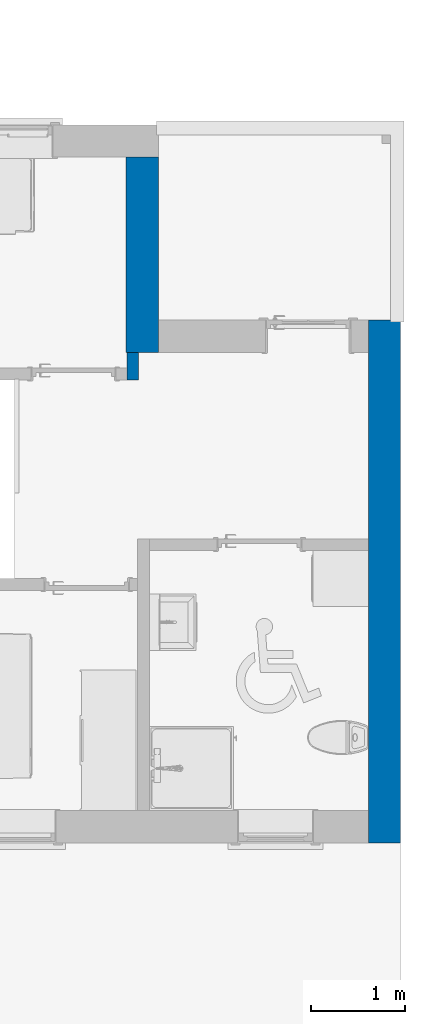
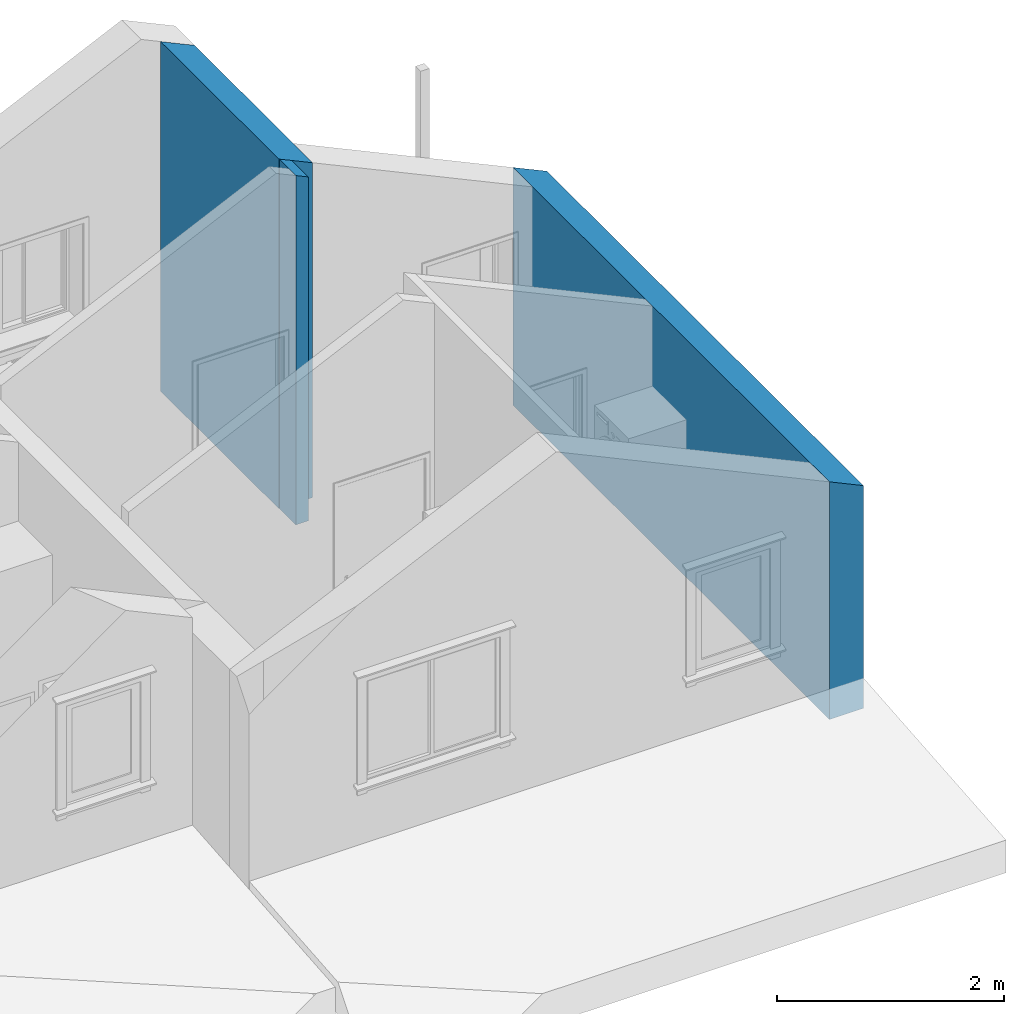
# One storey, part 28 of 44: 3 walls.
"""IFC2X3 building model written with IfcOpenShell, lengths in millimetres."""

from ifc_helpers import new_model, entity, si_unit, converted_unit, direction, frame, frame_2d, origin, place, context, subcontext, project, spatial, polyline, rectangle, extrude, clip, bounded_halfspace, material, layer, layer_set, layer_usage, type_object, element, save


model = new_model("IFC2X3")

# Units and contexts
model_context = context("Model", 3, precision=0.01, world=origin(), true_north=direction((0.0, 1.0)))
body_context = subcontext(model_context, "Body", "Model", "MODEL_VIEW")
ifc_project = project(units=[si_unit("LENGTHUNIT", "METRE", prefix="MILLI"), si_unit("AREAUNIT", "SQUARE_METRE"), si_unit("VOLUMEUNIT", "CUBIC_METRE"), converted_unit("PLANEANGLEUNIT", "DEGREE", entity("IfcPlaneAngleMeasure", 0.017453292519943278), si_unit("PLANEANGLEUNIT", "RADIAN"), dimensions=[0, 0, 0, 0, 0, 0, 0])], contexts=[model_context])

# Site, building, storey
site_placement = place(None, origin())
site = spatial("IfcSite", under=ifc_project, at=site_placement, Name="Default", CompositionType="ELEMENT")
building_placement = place(site_placement, origin())
building = spatial("IfcBuilding", under=site, at=building_placement, CompositionType="ELEMENT")
storey_placement = place(building_placement, frame((0.0, 0.0, 2681.0)))
storey = spatial("IfcBuildingStorey", under=building, at=storey_placement, Name="Et. 2", CompositionType="ELEMENT", Elevation=2681.0)

# Walls
ifc_material_1 = material(Name="Vegg - Stående Kledning_smal - HVIT")
ifc_layer_1 = layer(ifc_material_1, 19.0)
ifc_material_2 = material(Name="Vegg - Utlekting")
ifc_layer_2 = layer(ifc_material_2, 36.0)
ifc_layer_3 = layer(ifc_material_2, 23.0)
ifc_material_3 = material(Name="Vegg - Gips - GU")
ifc_layer_4 = layer(ifc_material_3, 9.0)
ifc_material_4 = material(Name="Vegg - Stender - Isolert")
ifc_layer_5 = layer(ifc_material_4, 198.0)
ifc_material_5 = material(Name="Vegg - Påforing - Isolert")
ifc_layer_6 = layer(ifc_material_5, 48.0)
ifc_material_6 = material(Name="Vegg - Gips - Hvit")
ifc_layer_7 = layer(ifc_material_6, 13.000000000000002)
ifc_layer_set_1 = layer_set([ifc_layer_1, ifc_layer_2, ifc_layer_3, ifc_layer_4, ifc_layer_5, ifc_layer_6, ifc_layer_7], Name="Basic Wall:23-Kv(sm)TIG-19_36_23_9_198_48_13")
ifc_layer_usage_1 = layer_usage(ifc_layer_set_1, "AXIS2", "NEGATIVE", 173.0)
wall_type_1 = type_object("IfcWallType", Name="Basic Wall:23-Kv(sm)TIG-19_36_23_9_198_48_13", PredefinedType="STANDARD", material=ifc_layer_set_1)
wall_1_placement = place(storey_placement, frame((34092.00958675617, 13995.18095768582, 0.0), z_axis=(0.0, 0.0, 1.0), x_axis=(0.0, -1.0, 0.0)))
element("IfcWallStandardCase", 1, at=wall_1_placement, inside=storey, type_object=wall_type_1, material=ifc_layer_usage_1, Name="Basic Wall:23-Kv(sm)TIG-19_36_23_9_198_48_13", context=body_context, shape_type="Clipping", body=[
    clip(extrude(rectangle(XDim=5587.000000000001, YDim=345.9999999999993, at=frame_2d((2793.5000000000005, 8.384404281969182e-13), x_axis=(-1.0, 0.0))), origin(), (0.0, 0.0, 1.0), 2561.3424497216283), bounded_halfspace(frame((0.0, -173.0, 2561.3424497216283), z_axis=(0.0, 0.42261826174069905, 0.9063077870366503), x_axis=(-1.0, 0.0, 0.0)), False, frame((0.0, -173.0, 2561.3424497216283)), polyline([(0.0, 0.0), (346.0, 0.0), (2337.122238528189, 0.0), (2463.1222385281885, 0.0), (5241.0, 0.0), (5587.0, 0.0), (5587.0, 346.0), (0.0, 346.0), (0.0, 0.0)]))),
])
ifc_layer_usage_2 = layer_usage(ifc_layer_set_1, "AXIS2", "NEGATIVE", 173.0)
wall_2_placement = place(storey_placement, frame((31505.00958675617, 15736.180957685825, 0.0), z_axis=(0.0, 0.0, 1.0), x_axis=(0.0, -1.0, 0.0)))
element("IfcWallStandardCase", 2, at=wall_2_placement, inside=storey, type_object=wall_type_1, material=ifc_layer_usage_2, Name="Basic Wall:23-Kv(sm)TIG-19_36_23_9_198_48_13", context=body_context, shape_type="Clipping", body=[
    clip(extrude(rectangle(XDim=2086.9999999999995, YDim=345.9999999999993, at=frame_2d((1043.4999999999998, 8.384404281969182e-13), x_axis=(-1.0, 0.0))), origin(), (0.0, 0.0, 1.0), 3767.6803613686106), bounded_halfspace(frame((0.0, -173.0, 3767.6803613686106), z_axis=(0.0, 0.42261826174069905, 0.9063077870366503), x_axis=(-1.0, 0.0, 0.0)), False, frame((0.0, -173.0, 3767.6803613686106)), polyline([(0.0, 0.0), (2087.0, 0.0), (2087.0, 6.0), (2087.0, 132.0), (2087.0, 346.0), (1741.0, 346.0), (0.0, 346.0), (0.0, 0.0)]))),
])
ifc_material_7 = material(Name="Vegg - Gips - Innvendig - Hvit")
ifc_layer_8 = layer(ifc_material_7, 13.000000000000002)
ifc_material_8 = material(Name="Vegg - Stender - Stål - Isolert")
ifc_layer_9 = layer(ifc_material_8, 100.0)
ifc_layer_10 = layer(ifc_material_7, 13.000000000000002)
ifc_layer_set_2 = layer_set([ifc_layer_8, ifc_layer_9, ifc_layer_10], Name="Basic Wall:24-GSIG-13_100_13")
ifc_layer_usage_3 = layer_usage(ifc_layer_set_2, "AXIS2", "POSITIVE", -63.00000000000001)
wall_type_2 = type_object("IfcWallType", Name="Basic Wall:24-GSIG-13_100_13", PredefinedType="STANDARD", material=ifc_layer_set_2)
wall_3_placement = place(storey_placement, frame((31401.009586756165, 13356.18095768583, 0.0), z_axis=(0.0, 0.0, 1.0), x_axis=(0.0, 1.0, 0.0)))
element("IfcWallStandardCase", 3, at=wall_3_placement, inside=storey, type_object=wall_type_2, material=ifc_layer_usage_3, Name="Basic Wall:24-GSIG-13_100_13", context=body_context, shape_type="Clipping", body=[
    clip(extrude(rectangle(XDim=292.9999999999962, YDim=125.99999999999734, at=frame_2d((146.4999999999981, 0.0), x_axis=(-1.0, 0.0))), origin(), (0.0, 0.0, 1.0), 3764.882515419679), bounded_halfspace(frame((0.0, -63.0, 3706.127750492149), z_axis=(0.0, -0.42261826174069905, 0.9063077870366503), x_axis=(1.0, 0.0, 0.0)), False, frame((0.0, -63.0, 3706.127750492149)), polyline([(0.0, 0.0), (293.0, 0.0), (293.0, 126.0), (126.0, 126.0), (0.0, 126.0), (0.0, 0.0)]))),
])

save(model, "model.ifc")
